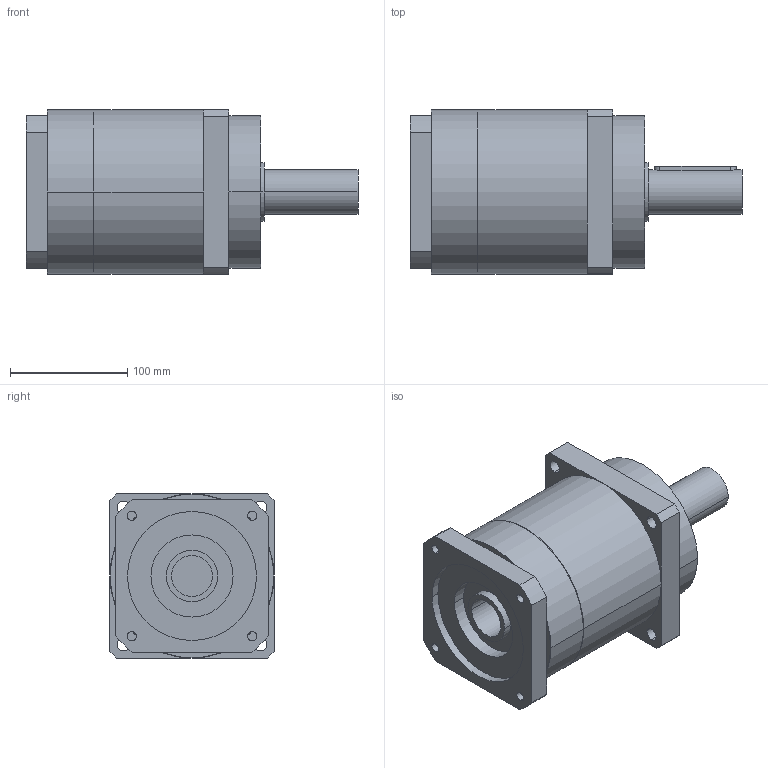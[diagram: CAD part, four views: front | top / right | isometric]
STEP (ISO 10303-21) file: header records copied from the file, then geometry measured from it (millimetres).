
FILE_DESCRIPTION(('CoCreate Modeling STEP Export'),'2;1');
FILE_NAME('GPR150_ig-3-4-5-7_38_B5_35_P08.stp','2014-08-19T16:43:15',(''),(''),'CoCreate Modeling STEP processor for AP214 (Solid Model)','CoCreate Modeling 16.00C 25-Feb-2009 (C) Parametric Technology GmbH','');
FILE_SCHEMA(('AUTOMOTIVE_DESIGN { 1 0 10303 214 1 1 1 1 }'));
Length unit declared in the file: millimetre
Products named in the file (2): GPR150_ig-3-4-5-7_38_B5_35_P08
Assembly tree (1 placements, depth 2):
  GPR150_ig-3-4-5-7_38_B5_35_P08
    GPR150_ig-3-4-5-7_38_B5_35_P08
Bounding box: 283 x 140 x 140 mm (x, y, z)
Volume: 3047839.3 mm3; surface area: 162411.9 mm2
Topology: 1 solids, 1 shells, 89 faces, 241 edges, 157 vertices
Faces by surface type: cylinder 46, plane 37, cone 6
Entity records: 2427 total; most frequent: ORIENTED_EDGE 478, CARTESIAN_POINT 441, DIRECTION 334, EDGE_CURVE 239, VERTEX_POINT 157, AXIS2_PLACEMENT_3D 122, EDGE_LOOP 110, VECTOR 90
